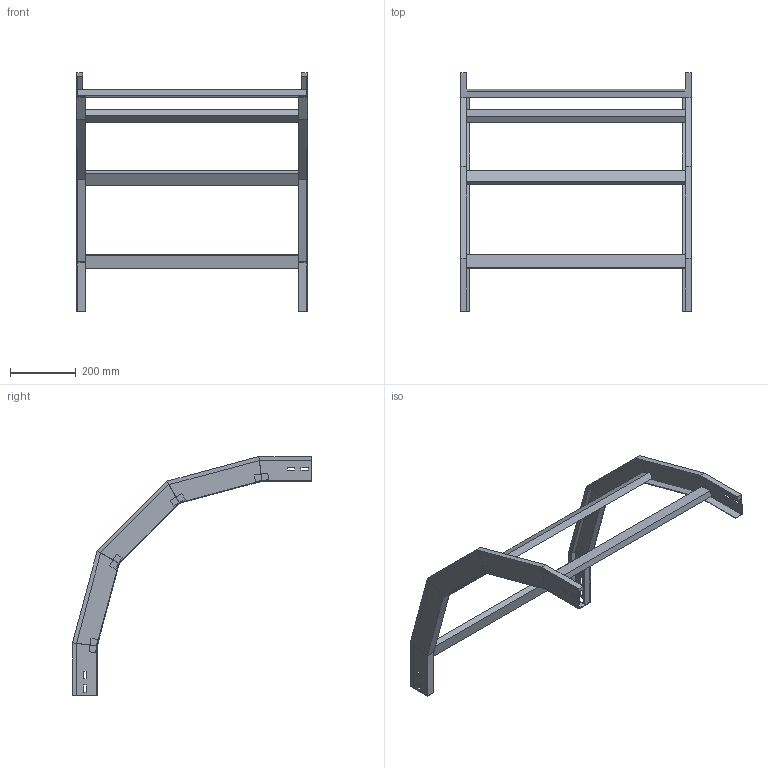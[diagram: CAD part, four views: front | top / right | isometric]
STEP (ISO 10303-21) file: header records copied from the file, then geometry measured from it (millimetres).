
FILE_DESCRIPTION (( 'STEP AP214' ), '1' );
FILE_NAME ('33B5C700.step', '2025-02-21T15:05:08', ( '' ), ( '' ), 'SwSTEP 2.0', 'SolidWorks 2023', '' );
FILE_SCHEMA (( 'AUTOMOTIVE_DESIGN' ));
Length unit declared in the file: millimetre
Products named in the file (3): TRAVERSINO_700; 33B5C700; LONGH.DISCESA_90°_H75_R500
Assembly tree (6 placements, depth 2):
  33B5C700
    LONGH.DISCESA_90°_H75_R500  x2
    TRAVERSINO_700  x4
Bounding box: 700 x 725.35 x 725.35 mm (x, y, z)
Volume: 3157437.3 mm3; surface area: 877400 mm2
Topology: 6 solids, 6 shells, 140 faces, 320 edges, 192 vertices
Faces by surface type: plane 140
Entity records: 1872 total; most frequent: CARTESIAN_POINT 309, ORIENTED_EDGE 296, DIRECTION 294, EDGE_CURVE 148, LINE 148, VECTOR 148, VERTEX_POINT 88, AXIS2_PLACEMENT_3D 73
